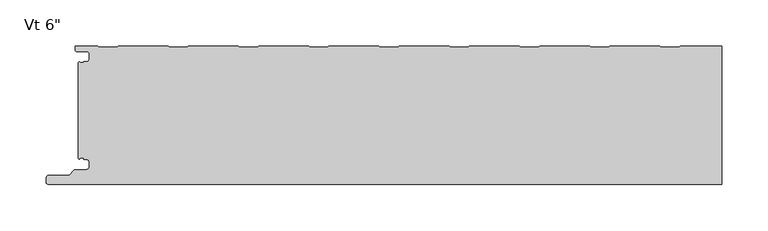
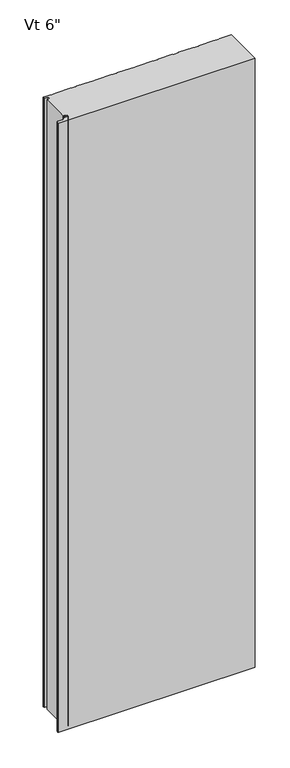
"""IFC4 building model written with IfcOpenShell, lengths in millimetres: plate geometry."""

import ifcopenshell
import ifcopenshell.guid

model = None  # the IFC model being written
_history = None  # IfcOwnerHistory: only IFC2X3 demands one
_inside = {}  # id of a spatial element -> (the spatial element, [elements in it])
_under = {}  # id of a project, library or spatial element -> (it, [spatial elements below it])
_declared = {}  # id of a project -> (the project, [libraries it declares])
_typed = {}  # id of a type object -> (the type object, [elements of that type])
_made_of = {}  # id of a material, layer set ... -> (it, [elements and type objects made of it])


def new_model(schema):
    """Start an empty IFC model of exactly this schema.

    Asked for "IFC4X3", IfcOpenShell would pick the latest addendum, in which some entities
    have other attributes; the version numbers below select the first issue.
    IFC2X3 requires an IfcOwnerHistory on every rooted entity: one is made here for all.
    """
    global model, _history
    if schema == "IFC4X3":
        model = ifcopenshell.file(schema_version=(4, 3, 0, 0))
    else:
        model = ifcopenshell.file(schema=schema)
    _inside.clear()
    _under.clear()
    _declared.clear()
    _typed.clear()
    _made_of.clear()
    _history = None
    if model.schema == "IFC2X3":
        org = make("IfcOrganization", Name="unknown")
        user = make(
            "IfcPersonAndOrganization",
            ThePerson=make("IfcPerson", FamilyName="unknown"),
            TheOrganization=org,
        )
        app = make(
            "IfcApplication",
            ApplicationDeveloper=org,
            Version="unknown",
            ApplicationFullName="unknown",
            ApplicationIdentifier="unknown",
        )
        _history = make(
            "IfcOwnerHistory",
            OwningUser=user,
            OwningApplication=app,
            ChangeAction="ADDED",
            CreationDate=0,
        )
    return model


def make(cls, **values):
    """One entity of the class cls with the attributes given. An attribute that is None is left unset."""
    return model.create_entity(
        cls, **{name: value for name, value in values.items() if value is not None}
    )


def rooted(cls, **values):
    """An entity with a GlobalId (a new one), such as an element, a storey or a relation."""
    return make(cls, GlobalId=ifcopenshell.guid.new(), OwnerHistory=_history, **values)


def si_unit(unit_type, name, prefix=None):
    """IfcSIUnit, for example si_unit("LENGTHUNIT", "METRE", prefix="MILLI")."""
    return make("IfcSIUnit", UnitType=unit_type, Prefix=prefix, Name=name)


def assignment(units):
    """IfcUnitAssignment: the units of a project."""
    return None if units is None else make("IfcUnitAssignment", Units=units)


def point(xyz):
    """IfcCartesianPoint."""
    return None if xyz is None else make("IfcCartesianPoint", Coordinates=xyz)


def direction(xyz):
    """IfcDirection."""
    return None if xyz is None else make("IfcDirection", DirectionRatios=xyz)


def frame(location, z_axis=None, x_axis=None):
    """IfcAxis2Placement3D, a coordinate frame: its origin and axes. An axis left out is left unset."""
    return make(
        "IfcAxis2Placement3D",
        Location=point(location),
        Axis=direction(z_axis),
        RefDirection=direction(x_axis),
    )


def origin():
    """The frame at (0, 0, 0) with its axes left unset."""
    return frame((0.0, 0.0, 0.0))


def place(relative_to, where):
    """IfcLocalPlacement: puts the frame where relative to a parent placement (None: the world)."""
    return make(
        "IfcLocalPlacement", PlacementRelTo=relative_to, RelativePlacement=where
    )


def context(
    kind, dimensions, precision=None, world=None, true_north=None, identifier=None
):
    """IfcGeometricRepresentationContext, for example the 3D "Model" context."""
    return make(
        "IfcGeometricRepresentationContext",
        ContextIdentifier=identifier,
        ContextType=kind,
        CoordinateSpaceDimension=dimensions,
        Precision=precision,
        WorldCoordinateSystem=world,
        TrueNorth=true_north,
    )


def project(units=None, contexts=None):
    """IfcProject with its units and contexts."""
    return rooted(
        "IfcProject",
        Name="project",
        RepresentationContexts=contexts,
        UnitsInContext=assignment(units),
    )


def spatial(cls, under=None, at=None, **own):
    """A site, building, storey or space (cls), placed at a placement, below another one or the project."""
    s = rooted(cls, ObjectPlacement=at, **own)
    if under is not None:
        _under.setdefault(under.id(), (under, []))[1].append(s)
    return s


def polyline(points):
    """IfcPolyline through the points."""
    return make("IfcPolyline", Points=[point(p) for p in points])


def circle_curve(where, radius):
    """IfcCircle in the frame where."""
    return make("IfcCircle", Position=where, Radius=radius)


def shape(context_of_items, identifier, shape_type, items):
    """IfcShapeRepresentation: the items that make up one representation, for example the "Body"."""
    return make(
        "IfcShapeRepresentation",
        ContextOfItems=context_of_items,
        RepresentationIdentifier=identifier,
        RepresentationType=shape_type,
        Items=items,
    )


def source(mapping_origin, context_of_items, identifier, shape_type, items):
    """IfcRepresentationMap: a shape defined once, which mapped items show again and again."""
    return make(
        "IfcRepresentationMap",
        MappingOrigin=mapping_origin,
        MappedRepresentation=shape(context_of_items, identifier, shape_type, items),
    )


def transform(
    local_origin,
    x_axis=None,
    y_axis=None,
    z_axis=None,
    scale=None,
    scale2=None,
    scale3=None,
    uniform=True,
):
    """IfcCartesianTransformationOperator3D, or its non-uniform kind. x_axis, y_axis, z_axis: its Axis1, 2, 3."""
    if uniform:
        return make(
            "IfcCartesianTransformationOperator3D",
            Axis1=direction(x_axis),
            Axis2=direction(y_axis),
            LocalOrigin=point(local_origin),
            Scale=scale,
            Axis3=direction(z_axis),
        )
    return make(
        "IfcCartesianTransformationOperator3DnonUniform",
        Axis1=direction(x_axis),
        Axis2=direction(y_axis),
        LocalOrigin=point(local_origin),
        Scale=scale,
        Axis3=direction(z_axis),
        Scale2=scale2,
        Scale3=scale3,
    )


def mapped(mapping_source, mapping_target):
    """IfcMappedItem: shows the shape of a source again, moved by a transform."""
    return make(
        "IfcMappedItem", MappingSource=mapping_source, MappingTarget=mapping_target
    )


def made_of(thing, what):
    """Note that an element or type object is made of a material, layer set ...; save() writes the relation."""
    if what is not None:
        _made_of.setdefault(what.id(), (what, []))[1].append(thing)
    return thing


def element(
    cls,
    number,
    at=None,
    inside=None,
    cuts=None,
    type_object=None,
    material=None,
    context=None,
    identifier="Body",
    shape_type=None,
    held_by="IfcProductDefinitionShape",
    body=None,
    shapes=None,
    **own,
):
    """One element of the class cls, such as IfcWall. Its Tag is "e" and its number.

    at: its placement. inside: the storey or other place that contains it. cuts: it is an
    opening in that element (IfcRelVoidsElement). A single representation is given by context,
    identifier, shape_type and body (its items); several are given by shapes. held_by: the class
    of the entity that holds the representations. save() writes the other relations.
    """
    e = rooted(cls, Tag="e%d" % number, ObjectPlacement=at, **own)
    if body is not None:
        shapes = [shape(context, identifier, shape_type, body)]
    if shapes is not None:
        e.Representation = make(held_by, Representations=shapes)
    if inside is not None:
        _inside.setdefault(inside.id(), (inside, []))[1].append(e)
    if cuts is not None:
        rooted(
            "IfcRelVoidsElement", RelatingBuildingElement=cuts, RelatedOpeningElement=e
        )
    if type_object is not None:
        _typed.setdefault(type_object.id(), (type_object, []))[1].append(e)
    return made_of(e, material)


def aggregate(whole, parts):
    """IfcRelAggregates: a whole, such as a stair, and the parts it consists of."""
    return rooted("IfcRelAggregates", RelatingObject=whole, RelatedObjects=parts)


def save(model, path):
    """Write the relations noted so far, then the file.

    IfcRelAggregates (storeys below a building ...), IfcRelContainedInSpatialStructure (elements
    in a storey), IfcRelDefinesByType, IfcRelAssociatesMaterial and IfcRelDeclares: one each for
    every whole, place, type object, material and project.
    """
    for whole, parts in _under.values():
        aggregate(whole, parts)
    for where, things in _inside.values():
        rooted(
            "IfcRelContainedInSpatialStructure",
            RelatedElements=things,
            RelatingStructure=where,
        )
    for kind, things in _typed.values():
        rooted("IfcRelDefinesByType", RelatedObjects=things, RelatingType=kind)
    for what, things in _made_of.values():
        rooted("IfcRelAssociatesMaterial", RelatedObjects=things, RelatingMaterial=what)
    for by, libraries in _declared.values():
        rooted("IfcRelDeclares", RelatingContext=by, RelatedDefinitions=libraries)
    model.write(path)


def plane_surface(at):
    """IfcPlane: the flat surface through the origin of the frame at, square to its z axis."""
    return make("IfcPlane", Position=at)


def cylinder_surface(at, radius):
    """IfcCylindricalSurface: all points at the distance radius from the z axis of the frame at."""
    return make("IfcCylindricalSurface", Position=at, Radius=radius)


def revolved_surface(curve, axis_point, axis_direction):
    """IfcSurfaceOfRevolution: the curve turned about the line through axis_point along axis_direction."""
    return make(
        "IfcSurfaceOfRevolution",
        SweptCurve=make("IfcArbitraryOpenProfileDef", ProfileType="CURVE", Curve=curve),
        AxisPosition=make("IfcAxis1Placement", Location=point(axis_point), Axis=direction(axis_direction)),
    )


def advanced_brep(points, edges, surfaces, faces):
    """IfcAdvancedBrep: a solid bounded by faces that lie on surfaces and meet in shared edges.

    An edge is (start, end): straight between two places in points (the first is 0);
    or (start, end, curve); or (start, end, curve, False) where it runs against its curve.
    A face is (place in surfaces, loops), or (place, loops, False) where it looks against
    its surface's normal. A loop lists edges by number (the first is 1), with a minus sign
    where the edge is run from its end to its start. The first loop is the outer one.
    """
    corners = [point(p) for p in points]
    vertices = [make("IfcVertexPoint", VertexGeometry=c) for c in corners]
    made = []
    for start, end, *more in edges:
        made.append(
            make(
                "IfcEdgeCurve",
                EdgeStart=vertices[start],
                EdgeEnd=vertices[end],
                EdgeGeometry=more[0] if more else make("IfcPolyline", Points=[corners[start], corners[end]]),
                SameSense=more[1] if len(more) > 1 else True,
            )
        )
    hull = []
    for where, loops, *sense in faces:
        bounds = []
        for j, loop in enumerate(loops):
            ring = [make("IfcOrientedEdge", EdgeElement=made[abs(k) - 1], Orientation=k > 0) for k in loop]
            bounds.append(
                make(
                    "IfcFaceOuterBound" if j == 0 else "IfcFaceBound",
                    Bound=make("IfcEdgeLoop", EdgeList=ring),
                    Orientation=True,
                )
            )
        hull.append(make("IfcAdvancedFace", Bounds=bounds, FaceSurface=surfaces[where], SameSense=sense[0] if sense else True))
    return make("IfcAdvancedBrep", Outer=make("IfcClosedShell", CfsFaces=hull))


def plate_255853b2(model_context):
    return source(origin(), model_context, "Body", "AdvancedBrep", [
        advanced_brep(
        [(-347.9683, -124.0708793, 2400.0), (-346.767176, -122.9014045, 2400.0), (-343.0087826, -122.9014045, 2400.0), (-343.0087826, -124.2998834, 2400.0), (-340.3096715, -124.2998834, 2400.0), (-336.9596762, -127.6498787, 2400.0), (-336.9596762, -132.0498699, 2400.0), (-340.3096715, -135.3998652, 2400.0), (-352.1205606, -135.3998652, 2400.0), (-353.3226383, -135.8977821, 2400.0), (-358.8247094, -141.3998532, 2400.0), (-380.9198391, -141.3998532, 2400.0), (-383.5765707, -143.6184552, 2400.0), (-384.0125697, -148.6002761, 2400.0), (-381.4521175, -151.394601, 2400.0), (348.9999998, -151.4000043, 2400.0), (348.9999998, -1.0000043, 2400.0), (303.7792489, -1.0000043, 2400.0), (302.3936159, -2.200235, 2400.0), (283.0184496, -2.200235, 2400.0), (281.6328167, -1.0000043, 2400.0), (227.5794013, -1.0000043, 2400.0), (226.1937683, -2.200235, 2400.0), (206.818602, -2.200235, 2400.0), (205.4329691, -1.0000043, 2400.0), (151.3795537, -1.0000043, 2400.0), (149.9939207, -2.200235, 2400.0), (130.6187544, -2.200235, 2400.0), (129.2331215, -1.0000043, 2400.0), (75.1797061, -1.0000043, 2400.0), (73.7940731, -2.200235, 2400.0), (54.4189068, -2.200235, 2400.0), (53.0332739, -1.0000043, 2400.0), (-1.0201415, -1.0000043, 2400.0), (-2.4057745, -2.200235, 2400.0), (-21.7809408, -2.200235, 2400.0), (-23.1665737, -1.0000043, 2400.0), (-77.2199891, -1.0000043, 2400.0), (-78.6056221, -2.200235, 2400.0), (-97.9807884, -2.200235, 2400.0), (-99.3664213, -1.0000043, 2400.0), (-153.4198367, -1.0000043, 2400.0), (-154.8054697, -2.200235, 2400.0), (-174.180636, -2.200235, 2400.0), (-175.5662689, -1.0000043, 2400.0), (-229.6196843, -1.0000043, 2400.0), (-231.0053173, -2.200235, 2400.0), (-250.3804836, -2.200235, 2400.0), (-251.7661165, -1.0000043, 2400.0), (-305.8195319, -1.0000043, 2400.0), (-307.2051649, -2.200235, 2400.0), (-326.5803312, -2.200235, 2400.0), (-327.9659738, -0.9999959, 2400.0), (-352.4662504, -0.9999959, 2400.0), (-352.4662504, -5.2315432, 2400.0), (-350.6962562, -7.0015374, 2400.0), (-340.2762777, -7.0015374, 2400.0), (-336.9762818, -10.3015333, 2400.0), (-336.9762818, -14.7015245, 2400.0), (-340.2762775, -18.0015202, 2400.0), (-342.9684873, -18.0015202, 2400.0), (-342.9684873, -19.0015147, 2400.0), (-346.968691, -19.0015147, 2400.0), (-347.9686882, -18.0015235, 2400.0), (-348.9999998, -19.0328351, 2400.0), (-348.9999998, -123.0391794, 2400.0), (-347.9683, -124.0708793, 0.0), (-348.9999998, -123.0391794, 0.0), (-348.9999998, -19.0328351, 0.0), (-347.9686882, -18.0015235, 0.0), (-346.968691, -19.0015147, 0.0), (-342.9684873, -19.0015147, 0.0), (-342.9684873, -18.0015202, 0.0), (-340.2762775, -18.0015202, 0.0), (-336.9762818, -14.7015245, 0.0), (-336.9762818, -10.3015333, 0.0), (-340.2762777, -7.0015374, 0.0), (-350.6962562, -7.0015374, 0.0), (-352.4662504, -5.2315432, 0.0), (-352.4662504, -0.9999959, 0.0), (-327.9659738, -0.9999959, 0.0), (-326.5803312, -2.200235, 0.0), (-307.2051649, -2.200235, 0.0), (-305.8195319, -1.0000043, 0.0), (-251.7661165, -1.0000043, 0.0), (-250.3804836, -2.200235, 0.0), (-231.0053173, -2.200235, 0.0), (-229.6196843, -1.0000043, 0.0), (-175.5662689, -1.0000043, 0.0), (-174.180636, -2.200235, 0.0), (-154.8054697, -2.200235, 0.0), (-153.4198367, -1.0000043, 0.0), (-99.3664213, -1.0000043, 0.0), (-97.9807884, -2.200235, 0.0), (-78.6056221, -2.200235, 0.0), (-77.2199891, -1.0000043, 0.0), (-23.1665737, -1.0000043, 0.0), (-21.7809408, -2.200235, 0.0), (-2.4057745, -2.200235, 0.0), (-1.0201415, -1.0000043, 0.0), (53.0332739, -1.0000043, 0.0), (54.4189068, -2.200235, 0.0), (73.7940731, -2.200235, 0.0), (75.1797061, -1.0000043, 0.0), (129.2331215, -1.0000043, 0.0), (130.6187544, -2.200235, 0.0), (149.9939207, -2.200235, 0.0), (151.3795537, -1.0000043, 0.0), (205.4329691, -1.0000043, 0.0), (206.818602, -2.200235, 0.0), (226.1937683, -2.200235, 0.0), (227.5794013, -1.0000043, 0.0), (281.6328167, -1.0000043, 0.0), (283.0184496, -2.200235, 0.0), (302.3936159, -2.200235, 0.0), (303.7792489, -1.0000043, 0.0), (348.9999998, -1.0000043, 0.0), (348.9999998, -151.4000043, 0.0), (-381.4521175, -151.4000043, 0.0), (-384.0125697, -148.6002761, 0.0), (-383.5765707, -143.6184552, 0.0), (-380.9198391, -141.3998532, 0.0), (-358.8247094, -141.3998532, 0.0), (-353.3226383, -135.8977821, 0.0), (-352.1205606, -135.3998652, 0.0), (-340.3096715, -135.3998652, 0.0), (-336.9596762, -132.0498699, 0.0), (-336.9596762, -127.6498787, 0.0), (-340.3096715, -124.2998834, 0.0), (-343.0087826, -124.2998834, 0.0), (-343.0087826, -122.9014045, 0.0), (-346.767176, -122.9014045, 0.0)],
        [
            (0, 1, circle_curve(frame((-346.7686906, -124.1014012, 2400.0), z_axis=(0.0, 0.0, -1.0), x_axis=(-1.0, 0.0, 0.0)), 1.1999976)),
            (1, 2),
            (2, 3),
            (3, 4),
            (4, 5, circle_curve(frame((-340.3096715, -127.6498787, 2400.0), z_axis=(0.0, 0.0, -1.0), x_axis=(-1.0, 0.0, 0.0)), 3.3499953)),
            (5, 6),
            (6, 7, circle_curve(frame((-340.3096715, -132.0498699, 2400.0), z_axis=(0.0, 0.0, -1.0), x_axis=(-1.0, 0.0, 0.0)), 3.3499953)),
            (7, 8),
            (8, 9, circle_curve(frame((-352.1205606, -137.0998598, 2400.0), z_axis=(0.0, 0.0, 1.0), x_axis=(-1.0, 0.0, 0.0)), 1.6999946)),
            (9, 10),
            (10, 11),
            (11, 12, circle_curve(frame((-380.9198391, -144.0998458, 2400.0), z_axis=(0.0, 0.0, 1.0), x_axis=(-1.0, 0.0, 0.0)), 2.6999926)),
            (12, 13),
            (13, 14, circle_curve(frame((-381.4521175, -148.8243617, 2400.0), z_axis=(0.0, 0.0, 1.0), x_axis=(-1.0, 0.0, 0.0)), 2.5702393)),
            (14, 15),
            (15, 16),
            (16, 17),
            (17, 18),
            (18, 19),
            (19, 20),
            (20, 21),
            (21, 22),
            (22, 23),
            (23, 24),
            (24, 25),
            (25, 26),
            (26, 27),
            (27, 28),
            (28, 29),
            (29, 30),
            (30, 31),
            (31, 32),
            (32, 33),
            (33, 34),
            (34, 35),
            (35, 36),
            (36, 37),
            (37, 38),
            (38, 39),
            (39, 40),
            (40, 41),
            (41, 42),
            (42, 43),
            (43, 44),
            (44, 45),
            (45, 46),
            (46, 47),
            (47, 48),
            (48, 49),
            (49, 50),
            (50, 51),
            (51, 52),
            (52, 53),
            (53, 54),
            (54, 55, circle_curve(frame((-350.6962562, -5.2315432, 2400.0), z_axis=(0.0, 0.0, 1.0), x_axis=(1.0, 0.0, 0.0)), 1.7699942)),
            (55, 56),
            (56, 57, circle_curve(frame((-340.2762777, -10.3015333, 2400.0), z_axis=(0.0, 0.0, -1.0), x_axis=(1.0, 0.0, 0.0)), 3.2999959)),
            (57, 58),
            (58, 59, circle_curve(frame((-340.2762775, -14.7015245, 2400.0), z_axis=(0.0, 0.0, -1.0), x_axis=(1.0, 0.0, 0.0)), 3.2999957)),
            (59, 60),
            (60, 61),
            (61, 62),
            (62, 63, circle_curve(frame((-346.968691, -18.0015175, 2400.0), z_axis=(0.0, 0.0, -1.0), x_axis=(1.0, 0.0, 0.0)), 0.9999972)),
            (63, 64),
            (64, 65),
            (65, 0),
            (66, 67),
            (67, 68),
            (68, 69),
            (69, 70, circle_curve(frame((-346.968691, -18.0015175, 0.0), z_axis=(0.0, 0.0, 1.0), x_axis=(1.0, 0.0, 0.0)), 0.9999972)),
            (70, 71),
            (71, 72),
            (72, 73),
            (73, 74, circle_curve(frame((-340.2762775, -14.7015245, 0.0), z_axis=(0.0, 0.0, 1.0), x_axis=(1.0, 0.0, 0.0)), 3.2999957)),
            (74, 75),
            (75, 76, circle_curve(frame((-340.2762777, -10.3015333, 0.0), z_axis=(0.0, 0.0, 1.0), x_axis=(1.0, 0.0, 0.0)), 3.2999959)),
            (76, 77),
            (77, 78, circle_curve(frame((-350.6962562, -5.2315432, 0.0), z_axis=(0.0, 0.0, -1.0), x_axis=(1.0, 0.0, 0.0)), 1.7699942)),
            (78, 79),
            (79, 80),
            (80, 81),
            (81, 82),
            (82, 83),
            (83, 84),
            (84, 85),
            (85, 86),
            (86, 87),
            (87, 88),
            (88, 89),
            (89, 90),
            (90, 91),
            (91, 92),
            (92, 93),
            (93, 94),
            (94, 95),
            (95, 96),
            (96, 97),
            (97, 98),
            (98, 99),
            (99, 100),
            (100, 101),
            (101, 102),
            (102, 103),
            (103, 104),
            (104, 105),
            (105, 106),
            (106, 107),
            (107, 108),
            (108, 109),
            (109, 110),
            (110, 111),
            (111, 112),
            (112, 113),
            (113, 114),
            (114, 115),
            (115, 116),
            (116, 117),
            (117, 118),
            (118, 119, circle_curve(frame((-381.4521175, -148.8243617, 0.0), z_axis=(0.0, 0.0, -1.0), x_axis=(-1.0, 0.0, 0.0)), 2.5702393)),
            (119, 120),
            (120, 121, circle_curve(frame((-380.9198391, -144.0998458, 0.0), z_axis=(0.0, 0.0, -1.0), x_axis=(-1.0, 0.0, 0.0)), 2.6999926)),
            (121, 122),
            (122, 123),
            (123, 124, circle_curve(frame((-352.1205606, -137.0998598, 0.0), z_axis=(0.0, 0.0, -1.0), x_axis=(-1.0, 0.0, 0.0)), 1.6999946)),
            (124, 125),
            (125, 126, circle_curve(frame((-340.3096715, -132.0498699, 0.0), z_axis=(0.0, 0.0, 1.0), x_axis=(-1.0, 0.0, 0.0)), 3.3499953)),
            (126, 127),
            (127, 128, circle_curve(frame((-340.3096715, -127.6498787, 0.0), z_axis=(0.0, 0.0, 1.0), x_axis=(-1.0, 0.0, 0.0)), 3.3499953)),
            (128, 129),
            (129, 130),
            (130, 131),
            (131, 66, circle_curve(frame((-346.7686906, -124.1014012, 0.0), z_axis=(0.0, 0.0, 1.0), x_axis=(-1.0, 0.0, 0.0)), 1.1999976)),
            (65, 67),
            (66, 0),
            (64, 68),
            (117, 15),
            (14, 118),
            (13, 119),
            (12, 120),
            (11, 121),
            (10, 122),
            (9, 123),
            (8, 124),
            (7, 125),
            (6, 126),
            (5, 127),
            (4, 128),
            (3, 129),
            (2, 130),
            (1, 131),
            (116, 16),
            (63, 69),
            (62, 70),
            (61, 71),
            (60, 72),
            (59, 73),
            (58, 74),
            (57, 75),
            (56, 76),
            (55, 77),
            (54, 78),
            (53, 79),
            (52, 80),
            (51, 81),
            (50, 82),
            (49, 83),
            (48, 84),
            (47, 85),
            (46, 86),
            (45, 87),
            (44, 88),
            (43, 89),
            (42, 90),
            (41, 91),
            (40, 92),
            (39, 93),
            (38, 94),
            (37, 95),
            (36, 96),
            (35, 97),
            (34, 98),
            (33, 99),
            (32, 100),
            (31, 101),
            (30, 102),
            (29, 103),
            (28, 104),
            (27, 105),
            (26, 106),
            (25, 107),
            (24, 108),
            (23, 109),
            (22, 110),
            (21, 111),
            (20, 112),
            (19, 113),
            (18, 114),
            (17, 115),
        ],
        [
            plane_surface(frame((32.0000002, -151.4000043, 2400.0), z_axis=(0.0, 0.0, 1.0), x_axis=(0.0, -1.0, 0.0))),
            plane_surface(frame((32.0000002, -151.4000043, 0.0), z_axis=(0.0, 0.0, -1.0), x_axis=(0.0, -1.0, 0.0))),
            plane_surface(frame((-347.9683, -124.0708793, 2400.0), z_axis=(-0.7071067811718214, -0.7071067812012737, 0.0), x_axis=(0.0, 0.0, -1.0))),
            plane_surface(frame((-348.9999998, -123.0391794, 2400.0), z_axis=(-1.0, 0.0, 0.0), x_axis=(0.0, 0.0, -1.0))),
            plane_surface(frame((364.5156221, -151.4000043, 2400.0), z_axis=(0.0, -1.0, 0.0), x_axis=(0.0, 0.0, -1.0))),
            cylinder_surface(frame((-381.4521175, -148.8243617, 2400.0), z_axis=(0.0, 0.0, 1.0), x_axis=(-1.0, 0.0, 0.0)), 2.5702393),
            plane_surface(frame((-384.0125697, -148.6002761, 2400.0), z_axis=(-0.9961921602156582, 0.08718474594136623, 0.0), x_axis=(0.0, 0.0, -1.0))),
            cylinder_surface(frame((-380.9198391, -144.0998458, 2400.0), z_axis=(0.0, 0.0, 1.0), x_axis=(-1.0, 0.0, 0.0)), 2.6999926),
            plane_surface(frame((-380.9198391, -141.3998532, 2400.0), z_axis=(0.0, 1.0, 0.0), x_axis=(0.0, 0.0, -1.0))),
            plane_surface(frame((-358.8247094, -141.3998532, 2400.0), z_axis=(-0.7071067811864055, 0.7071067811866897, 0.0), x_axis=(0.0, 0.0, -1.0))),
            cylinder_surface(frame((-352.1205606, -137.0998598, 2400.0), z_axis=(0.0, 0.0, 1.0), x_axis=(-1.0, 0.0, 0.0)), 1.6999946),
            plane_surface(frame((-352.1205606, -135.3998652, 2400.0), z_axis=(0.0, 1.0, 0.0), x_axis=(0.0, 0.0, -1.0))),
            revolved_surface(polyline([(-343.65966679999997, -132.0498699, 0.0), (-343.65966679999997, -132.0498699, 2400.0)]), (-340.3096715, -132.0498699, 2400.0), (0.0, 0.0, -1.0)),
            plane_surface(frame((-336.9596762, -132.0498699, 2400.0), z_axis=(-1.0, 0.0, 0.0), x_axis=(0.0, 0.0, -1.0))),
            revolved_surface(polyline([(-343.65966679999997, -127.6498787, 0.0), (-343.65966679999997, -127.6498787, 2400.0)]), (-340.3096715, -127.6498787, 2400.0), (0.0, 0.0, -1.0)),
            plane_surface(frame((-340.3096715, -124.2998834, 2400.0), z_axis=(0.0, -1.0, 0.0), x_axis=(0.0, 0.0, -1.0))),
            plane_surface(frame((-343.0087826, -124.2998834, 2400.0), z_axis=(-1.0, 0.0, 0.0), x_axis=(0.0, 0.0, -1.0))),
            plane_surface(frame((-343.0087826, -122.9014045, 2400.0), z_axis=(0.0, -1.0, 0.0), x_axis=(0.0, 0.0, -1.0))),
            revolved_surface(polyline([(-347.96868820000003, -124.1014012, 0.0), (-347.96868820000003, -124.1014012, 2400.0)]), (-346.7686906, -124.1014012, 2400.0), (0.0, 0.0, -1.0)),
            plane_surface(frame((348.9999998, -162.4000043, 2400.0), z_axis=(1.0, 0.0, 0.0), x_axis=(0.0, 0.0, -1.0))),
            plane_surface(frame((-348.9999998, -19.0328351, 2400.0), z_axis=(-0.7071067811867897, 0.7071067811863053, 0.0), x_axis=(0.0, 0.0, -1.0))),
            revolved_surface(polyline([(-345.9686938, -18.0015175, 0.0), (-345.9686938, -18.0015175, 2400.0)]), (-346.968691, -18.0015175, 2400.0), (0.0, 0.0, -1.0)),
            plane_surface(frame((-346.968691, -19.0015147, 2400.0), z_axis=(0.0, 1.0, 0.0), x_axis=(0.0, 0.0, -1.0))),
            plane_surface(frame((-342.9684873, -19.0015147, 2400.0), z_axis=(-1.0, 0.0, 0.0), x_axis=(0.0, 0.0, -1.0))),
            plane_surface(frame((-342.9684873, -18.0015202, 2400.0), z_axis=(0.0, 1.0, 0.0), x_axis=(0.0, 0.0, -1.0))),
            revolved_surface(polyline([(-336.9762818, -14.7015245, 0.0), (-336.9762818, -14.7015245, 2400.0)]), (-340.2762775, -14.7015245, 2400.0), (0.0, 0.0, -1.0)),
            plane_surface(frame((-336.9762818, -14.7015245, 2400.0), z_axis=(-1.0, 0.0, 0.0), x_axis=(0.0, 0.0, -1.0))),
            revolved_surface(polyline([(-336.9762818, -10.3015333, 0.0), (-336.9762818, -10.3015333, 2400.0)]), (-340.2762777, -10.3015333, 2400.0), (0.0, 0.0, -1.0)),
            plane_surface(frame((-340.2762777, -7.0015374, 2400.0), z_axis=(0.0, -1.0, 0.0), x_axis=(0.0, 0.0, -1.0))),
            cylinder_surface(frame((-350.6962562, -5.2315432, 2400.0), z_axis=(0.0, 0.0, 1.0), x_axis=(1.0, 0.0, 0.0)), 1.7699942),
            plane_surface(frame((-352.4662504, -5.2315432, 2400.0), z_axis=(-1.0, 0.0, 0.0), x_axis=(0.0, 0.0, -1.0))),
            plane_surface(frame((-352.4662504, -0.9999959, 2400.0), z_axis=(0.0, 1.0, 0.0), x_axis=(0.0, 0.0, -1.0))),
            plane_surface(frame((-327.9659738, -0.9999959, 2400.0), z_axis=(0.6547276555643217, 0.755864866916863, 0.0), x_axis=(0.0, 0.0, -1.0))),
            plane_surface(frame((-326.5803312, -2.200235, 2400.0), z_axis=(0.0, 1.0, 0.0), x_axis=(0.0, 0.0, -1.0))),
            plane_surface(frame((-307.2051649, -2.200235, 2400.0), z_axis=(-0.6547276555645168, 0.755864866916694, 0.0), x_axis=(0.0, 0.0, -1.0))),
            plane_surface(frame((-305.8195319, -1.0000043, 2400.0), z_axis=(0.0, 1.0, 0.0), x_axis=(0.0, 0.0, -1.0))),
            plane_surface(frame((-251.7661165, -1.0000043, 2400.0), z_axis=(0.6547276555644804, 0.7558648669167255, 0.0), x_axis=(0.0, 0.0, -1.0))),
            plane_surface(frame((-250.3804836, -2.200235, 2400.0), z_axis=(0.0, 1.0, 0.0), x_axis=(0.0, 0.0, -1.0))),
            plane_surface(frame((-231.0053173, -2.200235, 2400.0), z_axis=(-0.6547276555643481, 0.7558648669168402, 0.0), x_axis=(0.0, 0.0, -1.0))),
            plane_surface(frame((-229.6196843, -1.0000043, 2400.0), z_axis=(0.0, 1.0, 0.0), x_axis=(0.0, 0.0, -1.0))),
            plane_surface(frame((-175.5662689, -1.0000043, 2400.0), z_axis=(0.6547276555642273, 0.7558648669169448, 0.0), x_axis=(0.0, 0.0, -1.0))),
            plane_surface(frame((-174.180636, -2.200235, 2400.0), z_axis=(0.0, 1.0, 0.0), x_axis=(0.0, 0.0, -1.0))),
            plane_surface(frame((-154.8054697, -2.200235, 2400.0), z_axis=(-0.6547276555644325, 0.755864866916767, 0.0), x_axis=(0.0, 0.0, -1.0))),
            plane_surface(frame((-153.4198367, -1.0000043, 2400.0), z_axis=(0.0, 1.0, 0.0), x_axis=(0.0, 0.0, -1.0))),
            plane_surface(frame((-99.3664213, -1.0000043, 2400.0), z_axis=(0.6547276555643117, 0.7558648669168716, 0.0), x_axis=(0.0, 0.0, -1.0))),
            plane_surface(frame((-97.9807884, -2.200235, 2400.0), z_axis=(0.0, 1.0, 0.0), x_axis=(0.0, 0.0, -1.0))),
            plane_surface(frame((-78.6056221, -2.200235, 2400.0), z_axis=(-0.6547276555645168, 0.755864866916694, 0.0), x_axis=(0.0, 0.0, -1.0))),
            plane_surface(frame((-77.2199891, -1.0000043, 2400.0), z_axis=(0.0, 1.0, 0.0), x_axis=(0.0, 0.0, -1.0))),
            plane_surface(frame((-23.1665737, -1.0000043, 2400.0), z_axis=(0.654727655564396, 0.7558648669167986, 0.0), x_axis=(0.0, 0.0, -1.0))),
            plane_surface(frame((-21.7809408, -2.200235, 2400.0), z_axis=(0.0, 1.0, 0.0), x_axis=(0.0, 0.0, -1.0))),
            plane_surface(frame((-2.4057745, -2.200235, 2400.0), z_axis=(-0.6547276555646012, 0.7558648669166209, 0.0), x_axis=(0.0, 0.0, -1.0))),
            plane_surface(frame((-1.0201415, -1.0000043, 2400.0), z_axis=(0.0, 1.0, 0.0), x_axis=(0.0, 0.0, -1.0))),
            plane_surface(frame((53.0332739, -1.0000043, 2400.0), z_axis=(0.6547276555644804, 0.7558648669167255, 0.0), x_axis=(0.0, 0.0, -1.0))),
            plane_surface(frame((54.4189068, -2.200235, 2400.0), z_axis=(0.0, 1.0, 0.0), x_axis=(0.0, 0.0, -1.0))),
            plane_surface(frame((73.7940731, -2.200235, 2400.0), z_axis=(-0.65472765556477, 0.7558648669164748, 0.0), x_axis=(0.0, 0.0, -1.0))),
            plane_surface(frame((75.1797061, -1.0000043, 2400.0), z_axis=(0.0, 1.0, 0.0), x_axis=(0.0, 0.0, -1.0))),
            plane_surface(frame((129.2331215, -1.0000043, 2400.0), z_axis=(0.6547276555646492, 0.7558648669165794, 0.0), x_axis=(0.0, 0.0, -1.0))),
            plane_surface(frame((130.6187544, -2.200235, 2400.0), z_axis=(0.0, 1.0, 0.0), x_axis=(0.0, 0.0, -1.0))),
            plane_surface(frame((149.9939207, -2.200235, 2400.0), z_axis=(-0.65472765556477, 0.7558648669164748, 0.0), x_axis=(0.0, 0.0, -1.0))),
            plane_surface(frame((151.3795537, -1.0000043, 2400.0), z_axis=(0.0, 1.0, 0.0), x_axis=(0.0, 0.0, -1.0))),
            plane_surface(frame((205.4329691, -1.0000043, 2400.0), z_axis=(0.6547276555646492, 0.7558648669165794, 0.0), x_axis=(0.0, 0.0, -1.0))),
            plane_surface(frame((206.818602, -2.200235, 2400.0), z_axis=(0.0, 1.0, 0.0), x_axis=(0.0, 0.0, -1.0))),
            plane_surface(frame((226.1937683, -2.200235, 2400.0), z_axis=(-0.6547276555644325, 0.755864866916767, 0.0), x_axis=(0.0, 0.0, -1.0))),
            plane_surface(frame((227.5794013, -1.0000043, 2400.0), z_axis=(0.0, 1.0, 0.0), x_axis=(0.0, 0.0, -1.0))),
            plane_surface(frame((281.6328167, -1.0000043, 2400.0), z_axis=(0.6547276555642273, 0.7558648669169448, 0.0), x_axis=(0.0, 0.0, -1.0))),
            plane_surface(frame((283.0184496, -2.200235, 2400.0), z_axis=(0.0, 1.0, 0.0), x_axis=(0.0, 0.0, -1.0))),
            plane_surface(frame((302.3936159, -2.200235, 2400.0), z_axis=(-0.6547276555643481, 0.7558648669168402, 0.0), x_axis=(0.0, 0.0, -1.0))),
            plane_surface(frame((303.7792489, -1.0000043, 2400.0), z_axis=(0.0, 1.0, 0.0), x_axis=(0.0, 0.0, -1.0))),
        ],
        [
            (0, [[1, 2, 3, 4, 5, 6, 7, 8, 9, 10, 11, 12, 13, 14, 15, 16, 17, 18, 19, 20, 21, 22, 23, 24, 25, 26, 27, 28, 29, 30, 31, 32, 33, 34, 35, 36, 37, 38, 39, 40, 41, 42, 43, 44, 45, 46, 47, 48, 49, 50, 51, 52, 53, 54, 55, 56, 57, 58, 59, 60, 61, 62, 63, 64, 65, 66]]),
            (1, [[67, 68, 69, 70, 71, 72, 73, 74, 75, 76, 77, 78, 79, 80, 81, 82, 83, 84, 85, 86, 87, 88, 89, 90, 91, 92, 93, 94, 95, 96, 97, 98, 99, 100, 101, 102, 103, 104, 105, 106, 107, 108, 109, 110, 111, 112, 113, 114, 115, 116, 117, 118, 119, 120, 121, 122, 123, 124, 125, 126, 127, 128, 129, 130, 131, 132]]),
            (2, [[133, -67, 134, -66]]),
            (3, [[-65, 135, -68, -133]]),
            (4, [[-118, 136, -15, 137]]),
            (5, [[138, -119, -137, -14]]),
            (6, [[139, -120, -138, -13]]),
            (7, [[140, -121, -139, -12]]),
            (8, [[141, -122, -140, -11]]),
            (9, [[142, -123, -141, -10]]),
            (10, [[143, -124, -142, -9]]),
            (11, [[144, -125, -143, -8]]),
            (12, [[145, -126, -144, -7]]),
            (13, [[146, -127, -145, -6]]),
            (14, [[147, -128, -146, -5]]),
            (15, [[148, -129, -147, -4]]),
            (16, [[149, -130, -148, -3]]),
            (17, [[150, -131, -149, -2]]),
            (18, [[-134, -132, -150, -1]]),
            (19, [[-136, -117, 151, -16]]),
            (20, [[152, -69, -135, -64]]),
            (21, [[153, -70, -152, -63]]),
            (22, [[154, -71, -153, -62]]),
            (23, [[155, -72, -154, -61]]),
            (24, [[156, -73, -155, -60]]),
            (25, [[157, -74, -156, -59]]),
            (26, [[158, -75, -157, -58]]),
            (27, [[159, -76, -158, -57]]),
            (28, [[160, -77, -159, -56]]),
            (29, [[161, -78, -160, -55]]),
            (30, [[162, -79, -161, -54]]),
            (31, [[163, -80, -162, -53]]),
            (32, [[164, -81, -163, -52]]),
            (33, [[165, -82, -164, -51]]),
            (34, [[166, -83, -165, -50]]),
            (35, [[167, -84, -166, -49]]),
            (36, [[168, -85, -167, -48]]),
            (37, [[169, -86, -168, -47]]),
            (38, [[170, -87, -169, -46]]),
            (39, [[171, -88, -170, -45]]),
            (40, [[172, -89, -171, -44]]),
            (41, [[173, -90, -172, -43]]),
            (42, [[174, -91, -173, -42]]),
            (43, [[175, -92, -174, -41]]),
            (44, [[176, -93, -175, -40]]),
            (45, [[177, -94, -176, -39]]),
            (46, [[178, -95, -177, -38]]),
            (47, [[179, -96, -178, -37]]),
            (48, [[180, -97, -179, -36]]),
            (49, [[181, -98, -180, -35]]),
            (50, [[182, -99, -181, -34]]),
            (51, [[183, -100, -182, -33]]),
            (52, [[184, -101, -183, -32]]),
            (53, [[185, -102, -184, -31]]),
            (54, [[186, -103, -185, -30]]),
            (55, [[187, -104, -186, -29]]),
            (56, [[188, -105, -187, -28]]),
            (57, [[189, -106, -188, -27]]),
            (58, [[190, -107, -189, -26]]),
            (59, [[191, -108, -190, -25]]),
            (60, [[192, -109, -191, -24]]),
            (61, [[193, -110, -192, -23]]),
            (62, [[194, -111, -193, -22]]),
            (63, [[195, -112, -194, -21]]),
            (64, [[196, -113, -195, -20]]),
            (65, [[197, -114, -196, -19]]),
            (66, [[198, -115, -197, -18]]),
            (67, [[-17, -151, -116, -198]]),
        ],
    ),
    ])


if __name__ == "__main__":
    model = new_model("IFC4")
    model_context = context("Model", 3, world=origin())
    ifc_project = project(units=[si_unit("LENGTHUNIT", "METRE", prefix="MILLI")], contexts=[model_context])
    site = spatial("IfcSite", under=ifc_project)
    building = spatial("IfcBuilding", under=site)
    placement = place(None, origin())
    plate_shape = plate_255853b2(model_context)
    element("IfcPlate", 1, ObjectType="KIP-30-Karrier-KP-R19-CP-Vt-FL3-8_SL : Vt 6\"", at=placement, inside=building, context=model_context, shape_type="MappedRepresentation", body=[
        mapped(plate_shape, transform((0.0, 0.0, 0.0), x_axis=(1.0, 0.0, 0.0), y_axis=(0.0, 1.0, 0.0), z_axis=(0.0, 0.0, 1.0))),
    ])
    save(model, "model.ifc")
